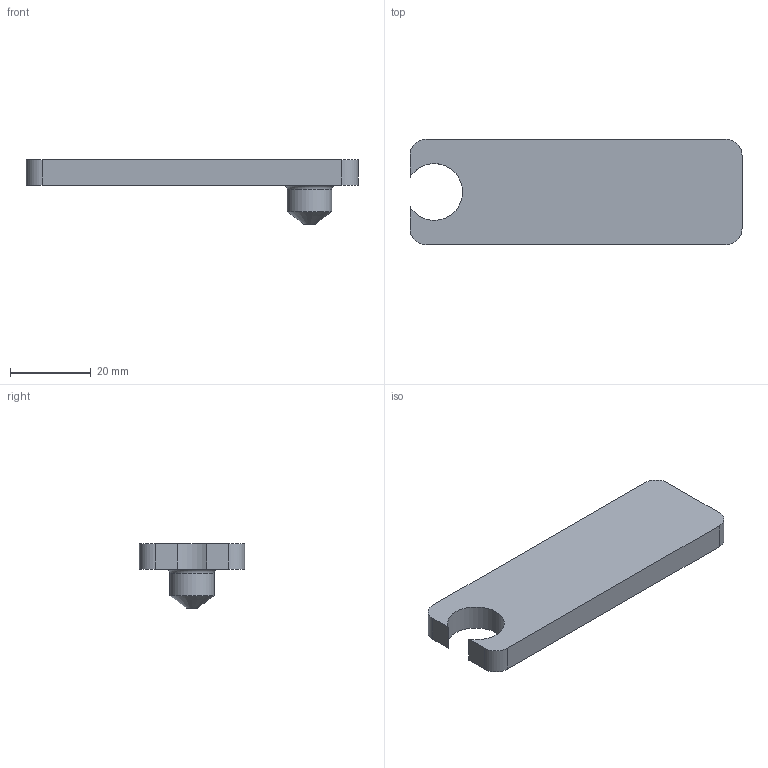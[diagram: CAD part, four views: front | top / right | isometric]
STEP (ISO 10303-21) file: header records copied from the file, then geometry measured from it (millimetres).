
FILE_DESCRIPTION(('Open CASCADE Model'),'2;1');
FILE_NAME('Open CASCADE Shape Model','2026-08-27T10:20:47',('Author'),( 'Open CASCADE'),'Open CASCADE STEP processor 7.9','Open CASCADE 7.9' ,'Unknown');
FILE_SCHEMA(('AUTOMOTIVE_DESIGN { 1 0 10303 214 1 1 1 1 }'));
Length unit declared in the file: millimetre
Products named in the file (1): Open CASCADE STEP translator 7.9 1
Bounding box: 82 x 26 x 16.05 mm (x, y, z)
Volume: 13259.5 mm3; surface area: 5684.6 mm2
Topology: 1 solids, 1 shells, 17 faces, 39 edges, 25 vertices
Faces by surface type: plane 8, cylinder 6, torus 2, cone 1
Full cylindrical faces by diameter (mm): 11 x1
Entity records: 1009 total; most frequent: CARTESIAN_POINT 208, DIRECTION 152, ORIENTED_EDGE 78, PCURVE 78, DEFINITIONAL_REPRESENTATION 78, LINE 76, VECTOR 76, EDGE_CURVE 39
